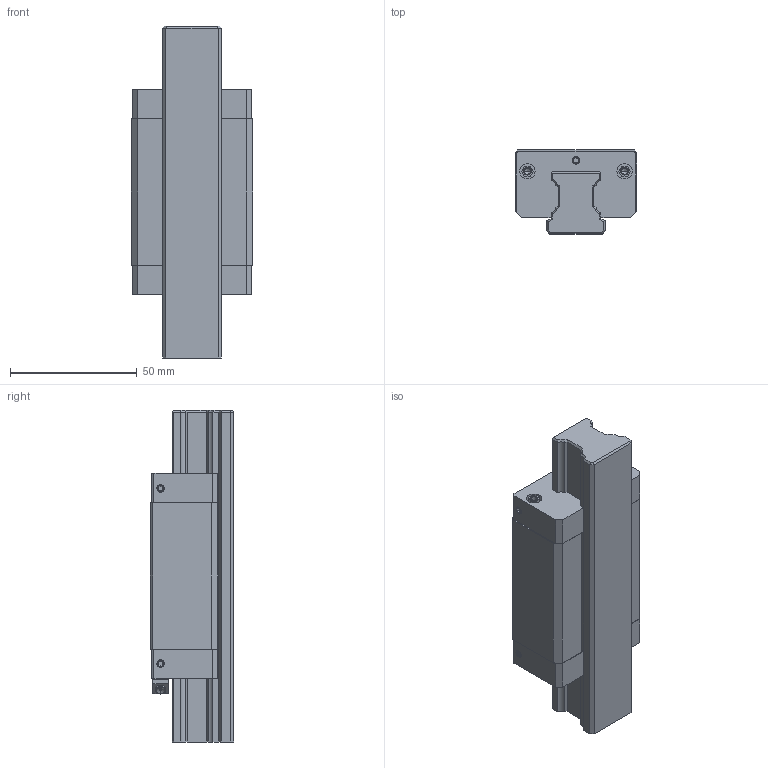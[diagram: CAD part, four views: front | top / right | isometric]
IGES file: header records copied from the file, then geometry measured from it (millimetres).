
Start section: 3D InterOp IGES (v. 2019 1.0.2), Spatial Corp. Copyright (c) 1999-2017.
Global section: file name: R1694_size25.igs; native system: Spatial Corp.; preprocessor: 3D InterOp GENERIC/IGES 3.0; author: Noname; organization: Noname; date: 20220629.125037; units: millimetre
Bounding box: 48 x 33 x 131 mm (x, y, z)
Surface area: 40646 mm2 (no closed solid volume)
Topology: 0 solids, 0 shells, 400 faces, 2012 edges, 1992 vertices
Faces by surface type: extrusion 213, revolution 187
